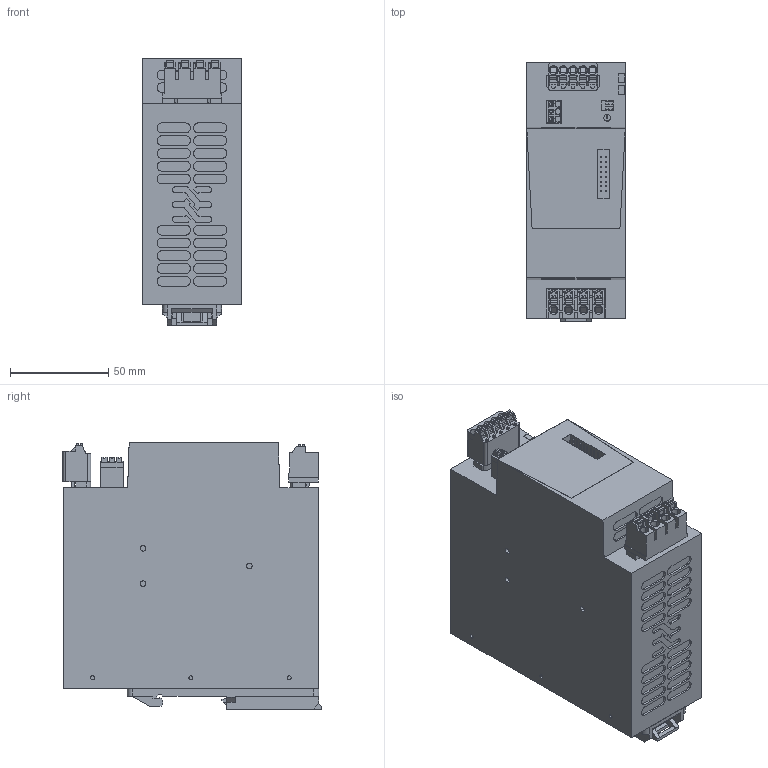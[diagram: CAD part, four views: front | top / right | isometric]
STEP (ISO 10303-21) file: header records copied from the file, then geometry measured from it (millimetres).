
FILE_DESCRIPTION(('CATIA V5R24 STEP','CAx-IF Rec.Pracs.--- Model Styling and Organization---1.2---2011-12-15'),'2;1');
FILE_NAME('\\SRVDE107\Germany\WMC\1_WMC_Input\A_Bruentrup\2467080000.stp','2018-02-01T13:10:18+00:00',('Weidmueller Interface'),('WI'),'CATIA Version 5-6 Release 2014 SP4','CATIA V5 STEP AP214','none');
FILE_SCHEMA(('AUTOMOTIVE_DESIGN { 1 0 10303 214 1 1 1 1 }'));
Products named in the file (1): 2467080000
Bounding box: 50 x 131.3 x 135.5 mm (x, y, z)
Volume: 776116.1 mm3; surface area: 89618.3 mm2
Topology: 53 solids, 53 shells, 1893 faces, 5441 edges, 3784 vertices
Faces by surface type: plane 1446, cylinder 334, extrusion 89, torus 18, cone 6
Entity records: 64184 total; most frequent: CARTESIAN_POINT 15963, ORIENTED_EDGE 10882, DIRECTION 7207, EDGE_CURVE 5441, VECTOR 3923, LINE 3834, VERTEX_POINT 3784, EDGE_LOOP 2027
